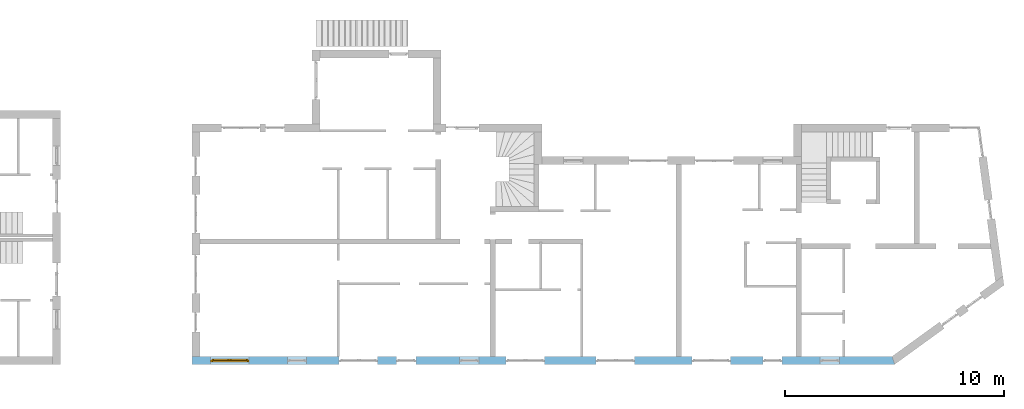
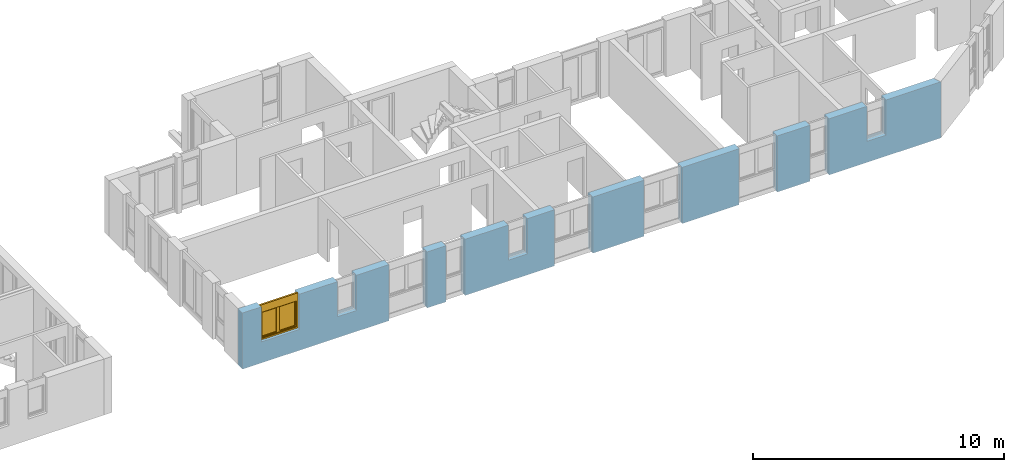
# One storey, part 31 of 41: 1 window, 10 openings, plus 1 element that does not belong to this part.
"""IFC2X3 building model written with IfcOpenShell, lengths in millimetres."""

from ifc_helpers import new_model, entity, si_unit, converted_unit, frame, frame_2d, origin, origin_with_axes, place, context, subcontext, project, spatial, polyline, rectangle, outline, extrude, faceted_brep, material, layer, layer_set, layer_usage, type_object, element, fill, save


model = new_model("IFC2X3")

# Units and contexts
model_context = context("Model", 3, precision=1e-05, world=origin())
body_context = subcontext(model_context, "Body", "Model", "MODEL_VIEW")
ifc_project = project(units=[si_unit("LENGTHUNIT", "METRE", prefix="MILLI"), converted_unit("PLANEANGLEUNIT", "DEGREE", entity("IfcPlaneAngleMeasure", 0.0174532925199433), si_unit("PLANEANGLEUNIT", "RADIAN"), dimensions=[0, 0, 0, 0, 0, 0, 0]), si_unit("AREAUNIT", "SQUARE_METRE"), si_unit("VOLUMEUNIT", "CUBIC_METRE")], contexts=[model_context])

# Building, storey
building_placement = place(None, origin())
building = spatial("IfcBuilding", under=ifc_project, at=building_placement, Name="Gebäude", CompositionType="ELEMENT")
storey_placement = place(building_placement, frame((0.0, 0.0, -200.0), z_axis=(0.0, 0.0, 1.0), x_axis=(1.0, 0.0, 0.0)))
storey = spatial("IfcBuildingStorey", under=building, at=storey_placement, Name="EG.- Grundriss", CompositionType="ELEMENT", Elevation=-200.0)

# Wall, openings, window
ifc_material_1 = material(Name="Poroton")
ifc_layer = layer(ifc_material_1, 365.0000000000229)
ifc_layer_set = layer_set([ifc_layer])
ifc_layer_usage = layer_usage(ifc_layer_set, "AXIS2", "POSITIVE", 0.0)
wall_placement = place(storey_placement, frame((148357.7928067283, 125274.8877324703, 0.0), z_axis=(0.0, 0.0, 1.0), x_axis=(1.0, -2.749268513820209e-11, 0.0)))
wall = element("IfcWallStandardCase", 1, at=wall_placement, inside=storey, material=ifc_layer_usage, Name="<Unnamed Element>", context=body_context, shape_type="SweptSolid", body=[
    extrude(outline(polyline([(0.0, 0.0), (32144.99999877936, 0.0), (32026.74038666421, 365.0000000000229), (-1.003483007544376e-08, 365.0), (0.0, 0.0)])), origin_with_axes(), (0.0, 0.0, 1.0), 2730.0),
])
opening_1_placement = place(wall_placement, frame((28740.29648749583, -1.103025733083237e-10, 1020.0), z_axis=(0.0, 1.0, 0.0), x_axis=(0.0, 0.0, 1.0)))
element("IfcOpeningElement", 2, at=opening_1_placement, cuts=wall, Name="Fensteröffnung", ObjectType="Opening", context=body_context, shape_type="SweptSolid", body=[
    extrude(rectangle(XDim=1710.0, YDim=885.0, at=frame_2d((855.0, 442.5), x_axis=(1.0, 0.0))), origin_with_axes(), (0.0, 0.0, 1.0), 365.0000000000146),
])
opening_2_placement = place(wall_placement, frame((26115.29648749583, -1.048456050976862e-10, 0.0), z_axis=(0.0, 1.0, 0.0), x_axis=(0.0, 0.0, 1.0)))
element("IfcOpeningElement", 3, at=opening_2_placement, cuts=wall, Name="Fensteröffnung", ObjectType="Opening", context=body_context, shape_type="SweptSolid", body=[
    extrude(rectangle(XDim=2730.0, YDim=885.0, at=frame_2d((1365.0, 442.5), x_axis=(1.0, 0.0))), origin_with_axes(), (0.0, 0.0, 1.0), 365.0000000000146),
])
opening_3_placement = place(wall_placement, frame((22865.29648749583, -7.937975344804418e-11, 0.0), z_axis=(0.0, 1.0, 0.0), x_axis=(0.0, 0.0, 1.0)))
element("IfcOpeningElement", 4, at=opening_3_placement, cuts=wall, Name="Fensteröffnung", ObjectType="Opening", context=body_context, shape_type="SweptSolid", body=[
    extrude(rectangle(XDim=2730.0, YDim=1760.0, at=frame_2d((1365.0, 880.0), x_axis=(1.0, 0.0))), origin_with_axes(), (0.0, 0.0, 1.0), 365.0000000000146),
])
opening_4_placement = place(wall_placement, frame((18490.51063065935, -4.984640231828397e-11, 0.0), z_axis=(0.0, 1.0, 0.0), x_axis=(0.0, 0.0, 1.0)))
element("IfcOpeningElement", 5, at=opening_4_placement, cuts=wall, Name="Fensteröffnung", ObjectType="Opening", context=body_context, shape_type="SweptSolid", body=[
    extrude(rectangle(XDim=2730.0, YDim=1760.0, at=frame_2d((1365.0, 880.0), x_axis=(1.0, 0.0))), origin_with_axes(), (0.0, 0.0, 1.0), 365.0000000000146),
])
opening_5_placement = place(wall_placement, frame((14365.26291871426, -7.302655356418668e-11, 0.0), z_axis=(0.0, 1.0, 0.0), x_axis=(0.0, 0.0, 1.0)))
element("IfcOpeningElement", 6, at=opening_5_placement, cuts=wall, Name="Fensteröffnung", ObjectType="Opening", context=body_context, shape_type="SweptSolid", body=[
    extrude(rectangle(XDim=2730.0, YDim=1760.0, at=frame_2d((1365.0, 880.0), x_axis=(1.0, 0.0))), origin_with_axes(), (0.0, 0.0, 1.0), 365.0000000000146),
])
opening_6_placement = place(wall_placement, frame((12240.0, -5.296897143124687e-11, 1020.0), z_axis=(0.0, 1.0, 0.0), x_axis=(0.0, 0.0, 1.0)))
element("IfcOpeningElement", 7, at=opening_6_placement, cuts=wall, Name="Fensteröffnung", ObjectType="Opening", context=body_context, shape_type="SweptSolid", body=[
    extrude(rectangle(XDim=1710.0, YDim=885.0, at=frame_2d((855.0, 442.5), x_axis=(1.0, 0.0))), origin_with_axes(), (0.0, 0.0, 1.0), 365.0000000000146),
])
opening_7_placement = place(wall_placement, frame((9365.0, -3.659806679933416e-11, 0.0), z_axis=(0.0, 1.0, 0.0), x_axis=(0.0, 0.0, 1.0)))
element("IfcOpeningElement", 8, at=opening_7_placement, cuts=wall, Name="Fensteröffnung", ObjectType="Opening", context=body_context, shape_type="SweptSolid", body=[
    extrude(rectangle(XDim=2730.0, YDim=885.0, at=frame_2d((1365.0, 442.5), x_axis=(1.0, 0.0))), origin_with_axes(), (0.0, 0.0, 1.0), 365.0000000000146),
])
opening_8_placement = place(wall_placement, frame((6740.0, -3.114109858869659e-11, 0.0), z_axis=(0.0, 1.0, 0.0), x_axis=(0.0, 0.0, 1.0)))
element("IfcOpeningElement", 9, at=opening_8_placement, cuts=wall, Name="Fensteröffnung", ObjectType="Opening", context=body_context, shape_type="SweptSolid", body=[
    extrude(rectangle(XDim=2730.0, YDim=1760.0, at=frame_2d((1365.0, 880.0), x_axis=(1.0, 0.0))), origin_with_axes(), (0.0, 0.0, 1.0), 365.0000000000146),
])
opening_9_placement = place(wall_placement, frame((4365.0, -7.494236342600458e-12, 1020.0), z_axis=(0.0, 1.0, 0.0), x_axis=(0.0, 0.0, 1.0)))
element("IfcOpeningElement", 10, at=opening_9_placement, cuts=wall, Name="Fensteröffnung", ObjectType="Opening", context=body_context, shape_type="SweptSolid", body=[
    extrude(rectangle(XDim=1710.0, YDim=885.0, at=frame_2d((855.0, 442.5), x_axis=(1.0, 0.0))), origin_with_axes(), (0.0, 0.0, 1.0), 365.0000000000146),
])
opening_10_placement = place(wall_placement, frame((865.0, -2.182787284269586e-13, 1020.0), z_axis=(0.0, 1.0, 0.0), x_axis=(0.0, 0.0, 1.0)))
opening_10 = element("IfcOpeningElement", 11, at=opening_10_placement, cuts=wall, Name="Fensteröffnung", ObjectType="Opening", context=body_context, shape_type="SweptSolid", body=[
    extrude(rectangle(XDim=1710.0, YDim=1760.0, at=frame_2d((854.9999999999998, 880.0), x_axis=(1.0, 0.0))), origin_with_axes(), (0.0, 0.0, 1.0), 365.0000000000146),
])
ifc_material_2 = material()
window_style = type_object("IfcWindowStyle", Name="Fenster", ConstructionType="NOTDEFINED", OperationType="USERDEFINED", ParameterTakesPrecedence=False, Sizeable=False)
window_placement = place(opening_10_placement, frame((0.0, 0.0, 0.0), z_axis=(1.0, 0.0, 0.0), x_axis=(0.0, 1.0, 0.0)))
window = element("IfcWindow", 12, at=window_placement, inside=storey, type_object=window_style, material=ifc_material_2, Name="Fenster", OverallHeight=1710.0, OverallWidth=1760.0, context=body_context, shape_type="Brep", body=[
    faceted_brep([(-1.221113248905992e-08, 200.0000000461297, 1710.0), (-1.221113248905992e-08, 200.0000000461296, -2.449293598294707e-15), (69.99999998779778, 200.0000000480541, -2.449293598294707e-15), (69.99999998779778, 200.0000000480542, 1710.0), (-1.001171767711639e-08, 120.0000000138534, 2.449293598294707e-15), (-1.00117176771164e-08, 120.0000000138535, 1710.0), (69.99999998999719, 120.000000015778, 1710.0), (69.99999998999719, 120.0000000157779, 2.449293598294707e-15), (-1.221113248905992e-08, 200.0000000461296, -2.449293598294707e-15), (-1.221113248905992e-08, 200.0000000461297, 1710.0), (-1.00117176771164e-08, 120.0000000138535, 1710.0), (-1.001171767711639e-08, 120.0000000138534, 2.449293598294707e-15), (69.99999998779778, 200.0000000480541, -2.449293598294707e-15), (-1.221113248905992e-08, 200.0000000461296, -2.449293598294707e-15), (-1.001171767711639e-08, 120.0000000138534, 2.449293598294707e-15), (69.99999998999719, 120.0000000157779, 2.449293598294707e-15), (69.99999998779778, 200.0000000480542, 1710.0), (69.99999998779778, 200.0000000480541, -2.449293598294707e-15), (69.99999998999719, 120.0000000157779, 2.449293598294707e-15), (69.99999998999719, 120.000000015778, 1710.0), (-1.221113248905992e-08, 200.0000000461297, 1710.0), (69.99999998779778, 200.0000000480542, 1710.0), (69.99999998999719, 120.000000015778, 1710.0), (-1.00117176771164e-08, 120.0000000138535, 1710.0)], [[[0, 1, 2, 3]], [[4, 5, 6, 7]], [[8, 9, 10, 11]], [[12, 13, 14, 15]], [[16, 17, 18, 19]], [[20, 21, 22, 23]]], orient=[[False], [False], [False], [False], [False], [False]]),
    faceted_brep([(1690.000000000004, 200.0000000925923, 1710.0), (1690.000000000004, 200.0000000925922, -2.449293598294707e-15), (1760.000000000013, 200.0000000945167, -2.449293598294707e-15), (1760.000000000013, 200.0000000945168, 1710.0), (1690.000000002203, 120.0000000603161, 2.449293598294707e-15), (1690.000000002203, 120.0000000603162, 1710.0), (1760.000000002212, 120.0000000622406, 1710.0), (1760.000000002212, 120.0000000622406, 2.449293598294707e-15), (1690.000000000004, 200.0000000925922, -2.449293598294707e-15), (1690.000000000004, 200.0000000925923, 1710.0), (1690.000000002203, 120.0000000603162, 1710.0), (1690.000000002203, 120.0000000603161, 2.449293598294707e-15), (1760.000000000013, 200.0000000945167, -2.449293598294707e-15), (1690.000000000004, 200.0000000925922, -2.449293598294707e-15), (1690.000000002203, 120.0000000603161, 2.449293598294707e-15), (1760.000000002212, 120.0000000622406, 2.449293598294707e-15), (1760.000000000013, 200.0000000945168, 1710.0), (1760.000000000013, 200.0000000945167, -2.449293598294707e-15), (1760.000000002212, 120.0000000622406, 2.449293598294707e-15), (1760.000000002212, 120.0000000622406, 1710.0), (1690.000000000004, 200.0000000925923, 1710.0), (1760.000000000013, 200.0000000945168, 1710.0), (1760.000000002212, 120.0000000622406, 1710.0), (1690.000000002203, 120.0000000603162, 1710.0)], [[[0, 1, 2, 3]], [[4, 5, 6, 7]], [[8, 9, 10, 11]], [[12, 13, 14, 15]], [[16, 17, 18, 19]], [[20, 21, 22, 23]]], orient=[[False], [False], [False], [False], [False], [False]]),
    faceted_brep([(69.99999998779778, 200.0000000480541, 70.0), (69.99999998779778, 200.0000000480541, -2.449293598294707e-15), (1690.000000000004, 200.0000000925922, -2.449293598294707e-15), (1690.000000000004, 200.0000000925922, 70.0), (69.99999998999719, 120.0000000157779, 2.449293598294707e-15), (69.99999998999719, 120.0000000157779, 70.0), (1690.000000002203, 120.0000000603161, 70.0), (1690.000000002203, 120.0000000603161, 2.449293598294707e-15), (69.99999998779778, 200.0000000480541, -2.449293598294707e-15), (69.99999998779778, 200.0000000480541, 70.0), (69.99999998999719, 120.0000000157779, 70.0), (69.99999998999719, 120.0000000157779, 2.449293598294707e-15), (1690.000000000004, 200.0000000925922, -2.449293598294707e-15), (69.99999998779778, 200.0000000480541, -2.449293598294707e-15), (69.99999998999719, 120.0000000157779, 2.449293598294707e-15), (1690.000000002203, 120.0000000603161, 2.449293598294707e-15), (1690.000000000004, 200.0000000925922, 70.0), (1690.000000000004, 200.0000000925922, -2.449293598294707e-15), (1690.000000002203, 120.0000000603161, 2.449293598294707e-15), (1690.000000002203, 120.0000000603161, 70.0), (69.99999998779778, 200.0000000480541, 70.0), (1690.000000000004, 200.0000000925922, 70.0), (1690.000000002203, 120.0000000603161, 70.0), (69.99999998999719, 120.0000000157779, 70.0)], [[[0, 1, 2, 3]], [[4, 5, 6, 7]], [[8, 9, 10, 11]], [[12, 13, 14, 15]], [[16, 17, 18, 19]], [[20, 21, 22, 23]]], orient=[[False], [False], [False], [False], [False], [False]]),
    faceted_brep([(69.99999998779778, 200.0000000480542, 1710.0), (69.99999998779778, 200.0000000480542, 1340.0), (1690.000000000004, 200.0000000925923, 1340.0), (1690.000000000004, 200.0000000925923, 1710.0), (69.99999998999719, 120.000000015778, 1340.0), (69.99999998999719, 120.000000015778, 1710.0), (1690.000000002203, 120.0000000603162, 1710.0), (1690.000000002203, 120.0000000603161, 1340.0), (69.99999998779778, 200.0000000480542, 1340.0), (69.99999998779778, 200.0000000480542, 1710.0), (69.99999998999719, 120.000000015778, 1710.0), (69.99999998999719, 120.000000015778, 1340.0), (1690.000000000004, 200.0000000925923, 1340.0), (69.99999998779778, 200.0000000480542, 1340.0), (69.99999998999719, 120.000000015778, 1340.0), (1690.000000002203, 120.0000000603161, 1340.0), (1690.000000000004, 200.0000000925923, 1710.0), (1690.000000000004, 200.0000000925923, 1340.0), (1690.000000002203, 120.0000000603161, 1340.0), (1690.000000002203, 120.0000000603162, 1710.0), (69.99999998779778, 200.0000000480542, 1710.0), (1690.000000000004, 200.0000000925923, 1710.0), (1690.000000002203, 120.0000000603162, 1710.0), (69.99999998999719, 120.000000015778, 1710.0)], [[[0, 1, 2, 3]], [[4, 5, 6, 7]], [[8, 9, 10, 11]], [[12, 13, 14, 15]], [[16, 17, 18, 19]], [[20, 21, 22, 23]]], orient=[[False], [False], [False], [False], [False], [False]]),
    faceted_brep([(49.99999998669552, 240.0000000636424, 1360.0), (49.99999998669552, 240.0000000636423, 50.0), (119.9999999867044, 240.0000000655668, 50.0), (119.9999999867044, 240.0000000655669, 1360.0), (49.99999998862, 170.0000000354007, 50.00000000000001), (49.99999998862, 170.0000000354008, 1360.0), (119.9999999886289, 170.0000000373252, 1360.0), (119.9999999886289, 170.0000000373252, 50.00000000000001), (49.99999998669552, 240.0000000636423, 50.0), (49.99999998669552, 240.0000000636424, 1360.0), (49.99999998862, 170.0000000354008, 1360.0), (49.99999998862, 170.0000000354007, 50.00000000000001), (119.9999999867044, 240.0000000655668, 50.0), (49.99999998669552, 240.0000000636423, 50.0), (49.99999998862, 170.0000000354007, 50.00000000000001), (119.9999999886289, 170.0000000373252, 50.00000000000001), (119.9999999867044, 240.0000000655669, 1360.0), (119.9999999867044, 240.0000000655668, 50.0), (119.9999999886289, 170.0000000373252, 50.00000000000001), (119.9999999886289, 170.0000000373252, 1360.0), (49.99999998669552, 240.0000000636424, 1360.0), (119.9999999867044, 240.0000000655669, 1360.0), (119.9999999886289, 170.0000000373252, 1360.0), (49.99999998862, 170.0000000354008, 1360.0)], [[[0, 1, 2, 3]], [[4, 5, 6, 7]], [[8, 9, 10, 11]], [[12, 13, 14, 15]], [[16, 17, 18, 19]], [[20, 21, 22, 23]]], orient=[[False], [False], [False], [False], [False], [False]]),
    faceted_brep([(789.4999999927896, 240.0000000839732, 1360.0), (789.4999999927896, 240.0000000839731, 50.0), (859.4999999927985, 240.0000000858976, 50.0), (859.4999999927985, 240.0000000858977, 1360.0), (789.4999999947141, 170.0000000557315, 50.00000000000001), (789.4999999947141, 170.0000000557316, 1360.0), (859.499999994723, 170.0000000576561, 1360.0), (859.499999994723, 170.000000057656, 50.00000000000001), (789.4999999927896, 240.0000000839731, 50.0), (789.4999999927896, 240.0000000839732, 1360.0), (789.4999999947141, 170.0000000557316, 1360.0), (789.4999999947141, 170.0000000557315, 50.00000000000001), (859.4999999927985, 240.0000000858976, 50.0), (789.4999999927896, 240.0000000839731, 50.0), (789.4999999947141, 170.0000000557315, 50.00000000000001), (859.499999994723, 170.000000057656, 50.00000000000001), (859.4999999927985, 240.0000000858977, 1360.0), (859.4999999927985, 240.0000000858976, 50.0), (859.499999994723, 170.000000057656, 50.00000000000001), (859.499999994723, 170.0000000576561, 1360.0), (789.4999999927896, 240.0000000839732, 1360.0), (859.4999999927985, 240.0000000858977, 1360.0), (859.499999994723, 170.0000000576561, 1360.0), (789.4999999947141, 170.0000000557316, 1360.0)], [[[0, 1, 2, 3]], [[4, 5, 6, 7]], [[8, 9, 10, 11]], [[12, 13, 14, 15]], [[16, 17, 18, 19]], [[20, 21, 22, 23]]], orient=[[False], [False], [False], [False], [False], [False]]),
    faceted_brep([(119.9999999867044, 240.0000000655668, 120.0), (119.9999999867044, 240.0000000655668, 50.0), (789.4999999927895, 240.0000000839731, 50.0), (789.4999999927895, 240.0000000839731, 120.0), (119.9999999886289, 170.0000000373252, 50.00000000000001), (119.9999999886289, 170.0000000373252, 120.0), (789.499999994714, 170.0000000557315, 120.0), (789.499999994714, 170.0000000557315, 50.00000000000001), (119.9999999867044, 240.0000000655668, 50.0), (119.9999999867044, 240.0000000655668, 120.0), (119.9999999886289, 170.0000000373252, 120.0), (119.9999999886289, 170.0000000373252, 50.00000000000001), (789.4999999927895, 240.0000000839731, 50.0), (119.9999999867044, 240.0000000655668, 50.0), (119.9999999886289, 170.0000000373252, 50.00000000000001), (789.499999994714, 170.0000000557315, 50.00000000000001), (789.4999999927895, 240.0000000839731, 120.0), (789.4999999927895, 240.0000000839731, 50.0), (789.499999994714, 170.0000000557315, 50.00000000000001), (789.499999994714, 170.0000000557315, 120.0), (119.9999999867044, 240.0000000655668, 120.0), (789.4999999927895, 240.0000000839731, 120.0), (789.499999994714, 170.0000000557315, 120.0), (119.9999999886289, 170.0000000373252, 120.0)], [[[0, 1, 2, 3]], [[4, 5, 6, 7]], [[8, 9, 10, 11]], [[12, 13, 14, 15]], [[16, 17, 18, 19]], [[20, 21, 22, 23]]], orient=[[False], [False], [False], [False], [False], [False]]),
    faceted_brep([(119.9999999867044, 240.0000000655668, 1360.0), (119.9999999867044, 240.0000000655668, 1290.0), (789.4999999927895, 240.0000000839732, 1290.0), (789.4999999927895, 240.0000000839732, 1360.0), (119.9999999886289, 170.0000000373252, 1290.0), (119.9999999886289, 170.0000000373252, 1360.0), (789.499999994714, 170.0000000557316, 1360.0), (789.499999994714, 170.0000000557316, 1290.0), (119.9999999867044, 240.0000000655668, 1290.0), (119.9999999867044, 240.0000000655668, 1360.0), (119.9999999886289, 170.0000000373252, 1360.0), (119.9999999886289, 170.0000000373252, 1290.0), (789.4999999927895, 240.0000000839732, 1290.0), (119.9999999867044, 240.0000000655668, 1290.0), (119.9999999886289, 170.0000000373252, 1290.0), (789.499999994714, 170.0000000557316, 1290.0), (789.4999999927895, 240.0000000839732, 1360.0), (789.4999999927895, 240.0000000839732, 1290.0), (789.499999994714, 170.0000000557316, 1290.0), (789.499999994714, 170.0000000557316, 1360.0), (119.9999999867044, 240.0000000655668, 1360.0), (789.4999999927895, 240.0000000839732, 1360.0), (789.499999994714, 170.0000000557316, 1360.0), (119.9999999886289, 170.0000000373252, 1360.0)], [[[0, 1, 2, 3]], [[4, 5, 6, 7]], [[8, 9, 10, 11]], [[12, 13, 14, 15]], [[16, 17, 18, 19]], [[20, 21, 22, 23]]], orient=[[False], [False], [False], [False], [False], [False]]),
    faceted_brep([(860.4999999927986, 240.0000000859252, 1360.0), (860.4999999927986, 240.0000000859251, 50.0), (930.4999999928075, 240.0000000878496, 50.0), (930.4999999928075, 240.0000000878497, 1360.0), (860.4999999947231, 170.0000000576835, 50.00000000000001), (860.4999999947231, 170.0000000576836, 1360.0), (930.499999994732, 170.0000000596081, 1360.0), (930.499999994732, 170.000000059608, 50.00000000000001), (860.4999999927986, 240.0000000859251, 50.0), (860.4999999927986, 240.0000000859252, 1360.0), (860.4999999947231, 170.0000000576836, 1360.0), (860.4999999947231, 170.0000000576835, 50.00000000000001), (930.4999999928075, 240.0000000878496, 50.0), (860.4999999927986, 240.0000000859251, 50.0), (860.4999999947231, 170.0000000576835, 50.00000000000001), (930.499999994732, 170.000000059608, 50.00000000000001), (930.4999999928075, 240.0000000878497, 1360.0), (930.4999999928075, 240.0000000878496, 50.0), (930.499999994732, 170.000000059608, 50.00000000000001), (930.499999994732, 170.0000000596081, 1360.0), (860.4999999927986, 240.0000000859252, 1360.0), (930.4999999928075, 240.0000000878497, 1360.0), (930.499999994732, 170.0000000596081, 1360.0), (860.4999999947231, 170.0000000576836, 1360.0)], [[[0, 1, 2, 3]], [[4, 5, 6, 7]], [[8, 9, 10, 11]], [[12, 13, 14, 15]], [[16, 17, 18, 19]], [[20, 21, 22, 23]]], orient=[[False], [False], [False], [False], [False], [False]]),
    faceted_brep([(1639.999999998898, 240.0000001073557, 1360.0), (1639.999999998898, 240.0000001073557, 50.0), (1709.999999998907, 240.0000001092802, 50.0), (1709.999999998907, 240.0000001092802, 1360.0), (1640.000000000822, 170.000000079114, 50.00000000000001), (1640.000000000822, 170.0000000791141, 1360.0), (1710.000000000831, 170.0000000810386, 1360.0), (1710.000000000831, 170.0000000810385, 50.00000000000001), (1639.999999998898, 240.0000001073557, 50.0), (1639.999999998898, 240.0000001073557, 1360.0), (1640.000000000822, 170.0000000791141, 1360.0), (1640.000000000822, 170.000000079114, 50.00000000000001), (1709.999999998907, 240.0000001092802, 50.0), (1639.999999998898, 240.0000001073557, 50.0), (1640.000000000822, 170.000000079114, 50.00000000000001), (1710.000000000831, 170.0000000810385, 50.00000000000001), (1709.999999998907, 240.0000001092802, 1360.0), (1709.999999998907, 240.0000001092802, 50.0), (1710.000000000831, 170.0000000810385, 50.00000000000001), (1710.000000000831, 170.0000000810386, 1360.0), (1639.999999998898, 240.0000001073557, 1360.0), (1709.999999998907, 240.0000001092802, 1360.0), (1710.000000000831, 170.0000000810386, 1360.0), (1640.000000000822, 170.0000000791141, 1360.0)], [[[0, 1, 2, 3]], [[4, 5, 6, 7]], [[8, 9, 10, 11]], [[12, 13, 14, 15]], [[16, 17, 18, 19]], [[20, 21, 22, 23]]], orient=[[False], [False], [False], [False], [False], [False]]),
    faceted_brep([(930.4999999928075, 240.0000000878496, 120.0), (930.4999999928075, 240.0000000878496, 50.0), (1639.999999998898, 240.0000001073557, 50.0), (1639.999999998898, 240.0000001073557, 120.0), (930.499999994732, 170.000000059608, 50.00000000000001), (930.499999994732, 170.000000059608, 120.0), (1640.000000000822, 170.000000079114, 120.0), (1640.000000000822, 170.000000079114, 50.00000000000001), (930.4999999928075, 240.0000000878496, 50.0), (930.4999999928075, 240.0000000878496, 120.0), (930.499999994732, 170.000000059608, 120.0), (930.499999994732, 170.000000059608, 50.00000000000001), (1639.999999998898, 240.0000001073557, 50.0), (930.4999999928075, 240.0000000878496, 50.0), (930.499999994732, 170.000000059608, 50.00000000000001), (1640.000000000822, 170.000000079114, 50.00000000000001), (1639.999999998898, 240.0000001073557, 120.0), (1639.999999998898, 240.0000001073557, 50.0), (1640.000000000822, 170.000000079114, 50.00000000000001), (1640.000000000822, 170.000000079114, 120.0), (930.4999999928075, 240.0000000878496, 120.0), (1639.999999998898, 240.0000001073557, 120.0), (1640.000000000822, 170.000000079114, 120.0), (930.499999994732, 170.000000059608, 120.0)], [[[0, 1, 2, 3]], [[4, 5, 6, 7]], [[8, 9, 10, 11]], [[12, 13, 14, 15]], [[16, 17, 18, 19]], [[20, 21, 22, 23]]], orient=[[False], [False], [False], [False], [False], [False]]),
    faceted_brep([(930.4999999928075, 240.0000000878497, 1360.0), (930.4999999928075, 240.0000000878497, 1290.0), (1639.999999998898, 240.0000001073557, 1290.0), (1639.999999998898, 240.0000001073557, 1360.0), (930.499999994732, 170.000000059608, 1290.0), (930.499999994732, 170.000000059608, 1360.0), (1640.000000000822, 170.0000000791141, 1360.0), (1640.000000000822, 170.0000000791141, 1290.0), (930.4999999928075, 240.0000000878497, 1290.0), (930.4999999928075, 240.0000000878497, 1360.0), (930.499999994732, 170.000000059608, 1360.0), (930.499999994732, 170.000000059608, 1290.0), (1639.999999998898, 240.0000001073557, 1290.0), (930.4999999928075, 240.0000000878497, 1290.0), (930.499999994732, 170.000000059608, 1290.0), (1640.000000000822, 170.0000000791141, 1290.0), (1639.999999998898, 240.0000001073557, 1360.0), (1639.999999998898, 240.0000001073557, 1290.0), (1640.000000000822, 170.0000000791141, 1290.0), (1640.000000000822, 170.0000000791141, 1360.0), (930.4999999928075, 240.0000000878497, 1360.0), (1639.999999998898, 240.0000001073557, 1360.0), (1640.000000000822, 170.0000000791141, 1360.0), (930.499999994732, 170.000000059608, 1360.0)], [[[0, 1, 2, 3]], [[4, 5, 6, 7]], [[8, 9, 10, 11]], [[12, 13, 14, 15]], [[16, 17, 18, 19]], [[20, 21, 22, 23]]], orient=[[False], [False], [False], [False], [False], [False]]),
    faceted_brep([(119.9999999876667, 205.000000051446, 120.0), (789.4999999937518, 205.0000000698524, 120.0), (789.4999999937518, 205.0000000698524, 1290.0), (119.9999999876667, 205.0000000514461, 1290.0), (119.9999999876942, 204.000000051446, 120.0), (119.9999999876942, 204.0000000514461, 1290.0), (789.4999999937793, 204.0000000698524, 1290.0), (789.4999999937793, 204.0000000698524, 120.0), (119.9999999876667, 205.000000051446, 120.0), (119.9999999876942, 204.000000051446, 120.0), (789.4999999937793, 204.0000000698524, 120.0), (789.4999999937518, 205.0000000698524, 120.0), (789.4999999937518, 205.0000000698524, 120.0), (789.4999999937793, 204.0000000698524, 120.0), (789.4999999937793, 204.0000000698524, 1290.0), (789.4999999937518, 205.0000000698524, 1290.0), (789.4999999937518, 205.0000000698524, 1290.0), (789.4999999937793, 204.0000000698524, 1290.0), (119.9999999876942, 204.0000000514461, 1290.0), (119.9999999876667, 205.0000000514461, 1290.0), (119.9999999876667, 205.0000000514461, 1290.0), (119.9999999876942, 204.0000000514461, 1290.0), (119.9999999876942, 204.000000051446, 120.0), (119.9999999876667, 205.000000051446, 120.0)], [[[0, 1, 2, 3]], [[4, 5, 6, 7]], [[8, 9, 10, 11]], [[12, 13, 14, 15]], [[16, 17, 18, 19]], [[20, 21, 22, 23]]], orient=[[False], [False], [False], [False], [False], [False]]),
    faceted_brep([(930.4999999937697, 205.0000000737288, 120.0), (1639.99999999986, 205.0000000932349, 120.0), (1639.99999999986, 205.000000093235, 1290.0), (930.4999999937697, 205.0000000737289, 1290.0), (930.4999999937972, 204.0000000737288, 120.0), (930.4999999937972, 204.0000000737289, 1290.0), (1639.999999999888, 204.000000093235, 1290.0), (1639.999999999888, 204.0000000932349, 120.0), (930.4999999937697, 205.0000000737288, 120.0), (930.4999999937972, 204.0000000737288, 120.0), (1639.999999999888, 204.0000000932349, 120.0), (1639.99999999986, 205.0000000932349, 120.0), (1639.99999999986, 205.0000000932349, 120.0), (1639.999999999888, 204.0000000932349, 120.0), (1639.999999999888, 204.000000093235, 1290.0), (1639.99999999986, 205.000000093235, 1290.0), (1639.99999999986, 205.000000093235, 1290.0), (1639.999999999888, 204.000000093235, 1290.0), (930.4999999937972, 204.0000000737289, 1290.0), (930.4999999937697, 205.0000000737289, 1290.0), (930.4999999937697, 205.0000000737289, 1290.0), (930.4999999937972, 204.0000000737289, 1290.0), (930.4999999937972, 204.0000000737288, 120.0), (930.4999999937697, 205.0000000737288, 120.0)], [[[0, 1, 2, 3]], [[4, 5, 6, 7]], [[8, 9, 10, 11]], [[12, 13, 14, 15]], [[16, 17, 18, 19]], [[20, 21, 22, 23]]], orient=[[False], [False], [False], [False], [False], [False]]),
])
fill(opening_10, window)

save(model, "model.ifc")
